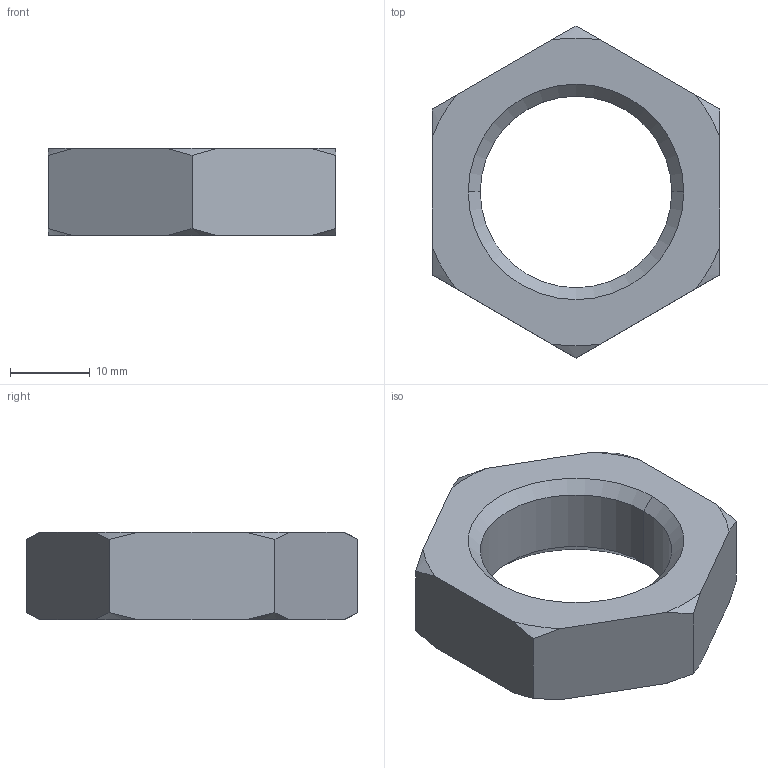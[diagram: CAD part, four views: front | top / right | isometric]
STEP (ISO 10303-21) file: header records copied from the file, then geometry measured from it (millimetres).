
FILE_DESCRIPTION (( 'STEP AP203' ), '1' );
FILE_NAME ('P0306.240-150-A4.step', '2018-12-15T15:01:42', ( '' ), ( '' ), 'SwSTEP 2.0', 'SolidWorks 2017', '' );
FILE_SCHEMA (( 'CONFIG_CONTROL_DESIGN' ));
Length unit declared in the file: millimetre
Products named in the file (1): P0306.240-150-A4
Bounding box: 36 x 41.57 x 10.9 mm (x, y, z)
Volume: 7111.7 mm3; surface area: 3368.3 mm2
Topology: 1 solids, 1 shells, 26 faces, 68 edges, 44 vertices
Faces by surface type: cone 16, plane 8, cylinder 2
Entity records: 905 total; most frequent: CARTESIAN_POINT 211, ORIENTED_EDGE 136, DIRECTION 118, EDGE_CURVE 68, AXIS2_PLACEMENT_3D 47, VERTEX_POINT 44, EDGE_LOOP 28, FACE_OUTER_BOUND 26
